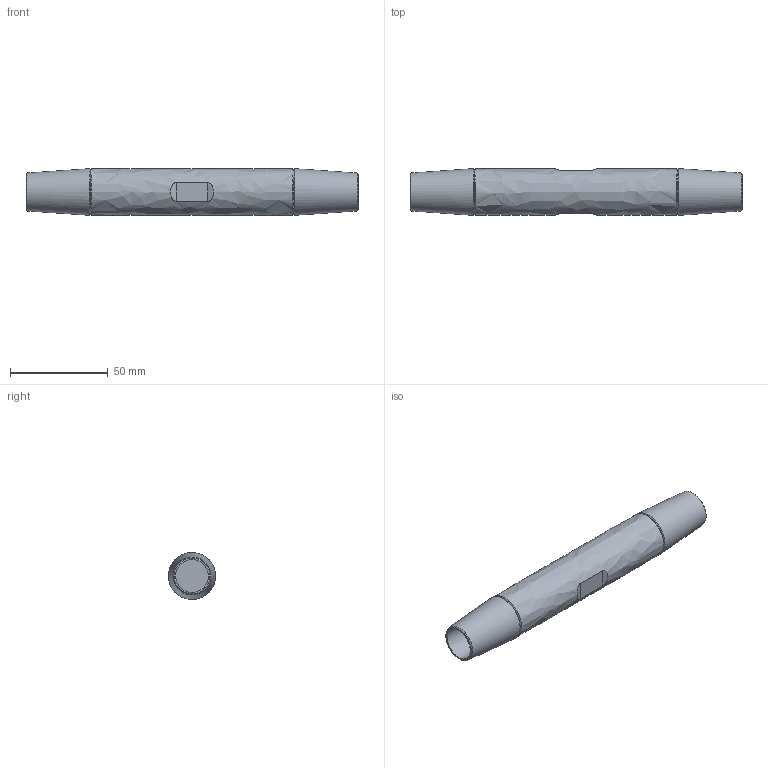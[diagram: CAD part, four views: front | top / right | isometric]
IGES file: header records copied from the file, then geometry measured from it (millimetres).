
Global section: file name: 520-016-MUF; native system: Autodesk Inventor 2016; preprocessor: unknown; author: Administrator; date: 20200630.131229; units: centimetre
Bounding box: 170 x 24 x 24 mm (x, y, z)
Volume: 60161.3 mm3; surface area: 15599.9 mm2
Topology: 1 solids, 1 shells, 21 faces, 53 edges, 37 vertices
Faces by surface type: bspline 21
